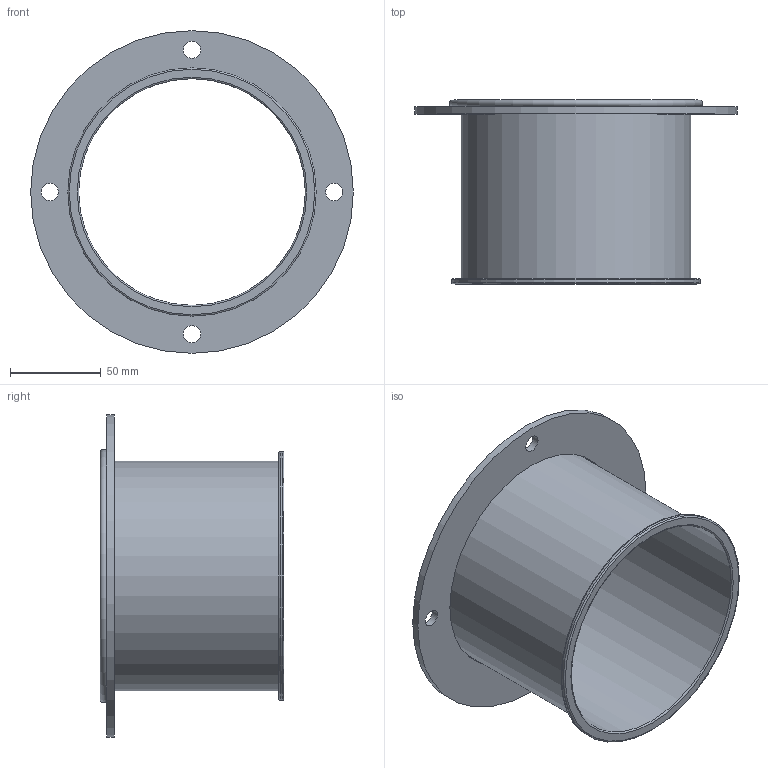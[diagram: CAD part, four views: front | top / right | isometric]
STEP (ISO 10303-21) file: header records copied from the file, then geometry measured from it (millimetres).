
FILE_DESCRIPTION(/* description */ (''),/* implementation_level */ '2;1');
FILE_NAME(/* name */ 'EA122-41B.stp',/* time_stamp */ '2021-02-23T13:43:07+01:00',/* author */ (''),/* organization */ (''),/* preprocessor_version */ 'ST-DEVELOPER v11',/* originating_system */ 'SIEMENS UGS NX 6.0',/* authorisation */ '');
FILE_SCHEMA (('CONFIG_CONTROL_DESIGN'));
Length unit declared in the file: millimetre
Products named in the file (1): gars4FD7yzge
Bounding box: 178 x 101.5 x 178 mm (x, y, z)
Volume: 94909.6 mm3; surface area: 128141.8 mm2
Topology: 3 solids, 3 shells, 28 faces, 57 edges, 39 vertices
Faces by surface type: cylinder 13, plane 10, torus 5
Full cylindrical faces by diameter (mm): 9.5 x4, 125 x2, 126.6 x2, 128 x1, 136.6 x2, 137 x1, 178 x1
Entity records: 714 total; most frequent: DIRECTION 122, CARTESIAN_POINT 93, FACE_BOUND 64, EDGE_LOOP 64, ORIENTED_EDGE 64, AXIS2_PLACEMENT_3D 61, VERTEX_POINT 32, EDGE_CURVE 32
